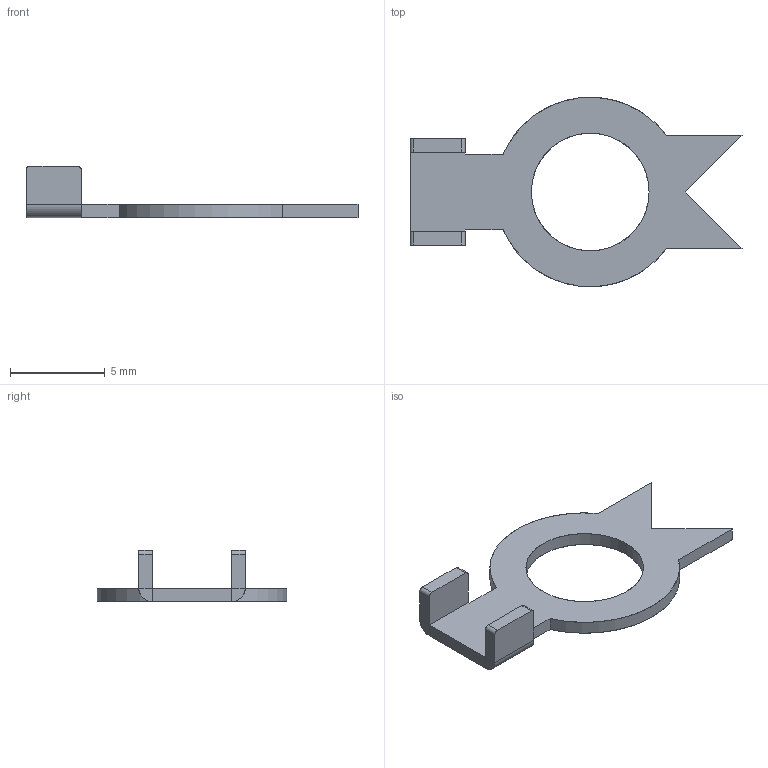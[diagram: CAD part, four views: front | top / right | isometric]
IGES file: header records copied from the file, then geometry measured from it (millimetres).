
Start section: SolidWorks IGES FILE using analytic representation for surfaces
Global section: file name: C:\Documents and Settings\lecoutey\Bureau\GR\55.070.10.IGS; native system: SolidWorks 2004 by SolidWorks Corporation; preprocessor: Version 5.3; author: lecoutey; date: 050404.180204; units: millimetre
Bounding box: 17.5 x 10 x 2.7 mm (x, y, z)
Surface area: 243.1 mm2 (no closed solid volume)
Topology: 0 solids, 0 shells, 35 faces, 322 edges, 322 vertices
Faces by surface type: bspline 25, revolution 10
